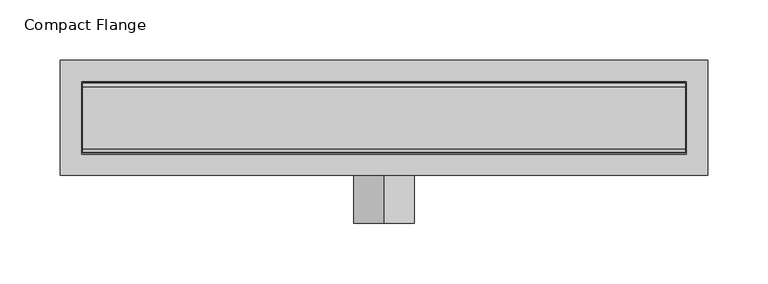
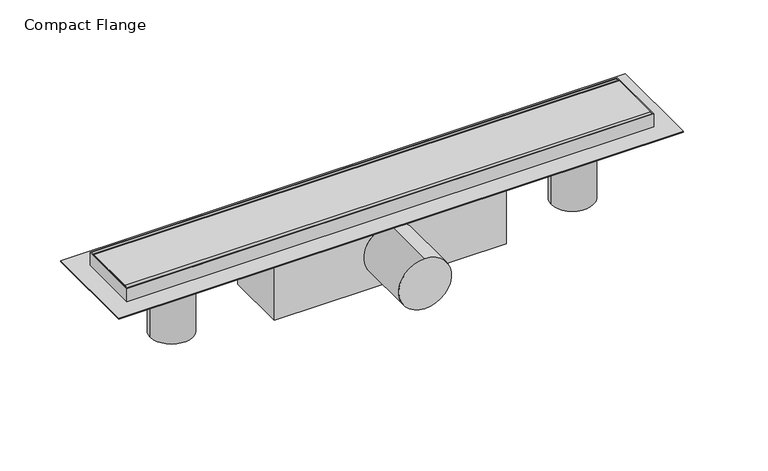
"""IFC4 building model written with IfcOpenShell, lengths in millimetres: sanitary terminal geometry, NLRS_PF_52_UN_Compact_Easydrain : Compact Flange."""

from ifc_helpers import new_model, si_unit, point, frame, frame_2d, origin, place, context, project, spatial, polyline, circle_curve, trimmed, segment, composite_curve, outline, extrude, source, transform, mapped, element, save
from ifc_brep_helpers import plane_surface, cylinder_surface, advanced_brep


def compact_flange_697ba35e(model_context):
    return source(origin(), model_context, "Body", "SolidModel", [
        extrude(outline(composite_curve([segment(polyline([(-25.5, 0.0), (25.5, 0.0)]), True, "CONTINUOUS"), segment(trimmed(circle_curve(frame_2d((25.5, -3.0)), 3.0), [point((25.5, 0.0))], [point((28.5, -3.0))], False, "CARTESIAN"), True, "CONTINUOUS"), segment(polyline([(28.5, -3.0), (28.5, -12.0), (-28.5, -12.0), (-28.5, -3.0)]), True, "CONTINUOUS"), segment(trimmed(circle_curve(frame_2d((-25.5, -3.0)), 3.0), [point((-28.5, -3.0))], [point((-25.5, 0.0))], False, "CARTESIAN"), True, "CONTINUOUS")], self_intersect=False)), frame((-249.0, 0.0, 0.0), z_axis=(1.0, 0.0, 0.0), x_axis=(0.0, 1.0, 0.0)), (0.0, 0.0, 1.0), 498.0),
        extrude(outline(composite_curve([segment(trimmed(circle_curve(frame_2d((190.0, 0.0)), 20.0), [point((210.0, 0.0))], [point((170.0, 0.0))], False, "CARTESIAN"), True, "CONTINUOUS"), segment(trimmed(circle_curve(frame_2d((190.0, 0.0)), 20.0), [point((170.0, 0.0))], [point((210.0, 0.0))], False, "CARTESIAN"), True, "CONTINUOUS")], self_intersect=False)), frame((0.0, 0.0, -81.0), z_axis=(0.0, 0.0, 1.0), x_axis=(1.0, 0.0, 0.0)), (0.0, 0.0, 1.0), 63.0),
        extrude(outline(composite_curve([segment(trimmed(circle_curve(frame_2d((-190.0, 0.0)), 20.0), [point((-210.0, 0.0))], [point((-170.0, 0.0))], False, "CARTESIAN"), True, "CONTINUOUS"), segment(trimmed(circle_curve(frame_2d((-190.0, 0.0)), 20.0), [point((-170.0, 0.0))], [point((-210.0, 0.0))], False, "CARTESIAN"), True, "CONTINUOUS")], self_intersect=False)), frame((0.0, 0.0, -81.0), z_axis=(0.0, 0.0, 1.0), x_axis=(1.0, 0.0, 0.0)), (0.0, 0.0, 1.0), 63.0),
        extrude(outline(polyline([(267.5, 47.5), (267.5, -47.5), (-267.5, -47.5), (-267.5, 47.5), (267.5, 47.5)]), holes=[polyline([(250.0, 30.0), (-250.0, 30.0), (-250.0, -30.0), (250.0, -30.0), (250.0, 30.0)])]), frame((0.0, 0.0, -14.0), z_axis=(0.0, 0.0, 1.0), x_axis=(1.0, 0.0, 0.0)), (0.0, 0.0, 1.0), 1.0),
        advanced_brep(
        [(-250.0, -30.0, -18.0), (-110.0, -30.0, -20.0), (-110.0, -30.0, -81.0), (110.0, -30.0, -81.0), (110.0, -30.0, -20.0), (250.0, -30.0, -18.0), (250.0, -30.0, 0.0), (-250.0, -30.0, 0.0), (0.0, -30.0, -23.0), (0.0, -30.0, -73.0), (-250.0, 30.0, -18.0), (-250.0, 30.0, 0.0), (250.0, 30.0, 0.0), (250.0, 30.0, -18.0), (110.0, 30.0, -20.0), (110.0, 30.0, -81.0), (-110.0, 30.0, -81.0), (-110.0, 30.0, -20.0), (-249.0, 29.0, 0.0), (249.0, 29.0, 0.0), (249.0, -29.0, 0.0), (-249.0, -29.0, 0.0), (0.0, -87.0466767, -23.0), (0.0, -87.0466767, -73.0), (249.0, 29.0, -12.0), (-249.0, 29.0, -12.0), (-249.0, -29.0, -12.0), (249.0, -29.0, -12.0)],
        [
            (0, 1),
            (1, 2),
            (2, 3),
            (3, 4),
            (4, 5),
            (5, 6),
            (6, 7),
            (7, 0),
            (8, 9, circle_curve(frame((0.0, -30.0, -48.0), z_axis=(0.0, 1.0, 0.0), x_axis=(0.0, 0.0, -1.0)), 25.0)),
            (9, 8, circle_curve(frame((0.0, -30.0, -48.0), z_axis=(0.0, 1.0, 0.0), x_axis=(0.0, 0.0, -1.0)), 25.0)),
            (10, 11),
            (11, 12),
            (12, 13),
            (13, 14),
            (14, 15),
            (15, 16),
            (16, 17),
            (17, 10),
            (0, 10),
            (17, 1),
            (5, 13),
            (12, 6),
            (11, 7),
            (18, 19),
            (19, 20),
            (20, 21),
            (21, 18),
            (16, 2),
            (15, 3),
            (14, 4),
            (22, 23, circle_curve(frame((0.0, -87.0466767, -48.0), z_axis=(0.0, -1.0, 0.0), x_axis=(0.0, 0.0, -1.0)), 25.0)),
            (23, 22, circle_curve(frame((0.0, -87.0466767, -48.0), z_axis=(0.0, -1.0, 0.0), x_axis=(0.0, 0.0, -1.0)), 25.0)),
            (23, 9),
            (8, 22),
            (24, 25),
            (25, 26),
            (26, 27),
            (27, 24),
            (24, 19),
            (18, 25),
            (21, 26),
            (20, 27),
        ],
        [
            plane_surface(frame((-250.0, -30.0, -18.0), z_axis=(0.0, -1.0, 0.0), x_axis=(0.99989797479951, 0.0, -0.014284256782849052))),
            plane_surface(frame((-250.0, 30.0, -18.0), z_axis=(0.0, 1.0, 0.0), x_axis=(-0.99989797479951, 0.0, 0.014284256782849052))),
            plane_surface(frame((-250.0, -30.0, -18.0), z_axis=(-0.014284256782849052, 0.0, -0.99989797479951), x_axis=(0.0, 1.0, 0.0))),
            plane_surface(frame((250.0, -30.0, -18.0), z_axis=(1.0, 0.0, 0.0), x_axis=(0.0, 1.0, 0.0))),
            plane_surface(frame((250.0, -30.0, 0.0), z_axis=(0.0, 0.0, 1.0), x_axis=(0.0, 1.0, 0.0))),
            plane_surface(frame((-250.0, -30.0, 0.0), z_axis=(-1.0, 0.0, 0.0), x_axis=(0.0, 1.0, 0.0))),
            plane_surface(frame((-110.0, -30.0, -20.0), z_axis=(-1.0, 0.0, 0.0), x_axis=(0.0, 1.0, 0.0))),
            plane_surface(frame((-110.0, -30.0, -81.0), z_axis=(0.0, 0.0, -1.0), x_axis=(0.0, 1.0, 0.0))),
            plane_surface(frame((110.0, -30.0, -81.0), z_axis=(1.0, 0.0, 0.0), x_axis=(0.0, 1.0, 0.0))),
            plane_surface(frame((110.0, -30.0, -20.0), z_axis=(0.01428425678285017, 0.0, -0.99989797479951), x_axis=(0.0, 1.0, 0.0))),
            plane_surface(frame((0.0, -87.0466767, -48.0), z_axis=(0.0, -1.0, 0.0), x_axis=(1.0, 0.0, 0.0))),
            cylinder_surface(frame((0.0, 0.0, -48.0), z_axis=(0.0, 1.0, 0.0), x_axis=(0.0, 0.0, -1.0)), 25.0),
            plane_surface(frame((-249.0, 29.0, -12.0), z_axis=(0.0, 0.0, 1.0), x_axis=(1.0, 0.0, 0.0))),
            plane_surface(frame((249.0, 29.0, 0.0), z_axis=(0.0, -1.0, 0.0), x_axis=(0.0, 0.0, -1.0))),
            plane_surface(frame((-249.0, 29.0, 0.0), z_axis=(1.0, 0.0, 0.0), x_axis=(0.0, 0.0, -1.0))),
            plane_surface(frame((-249.0, -29.0, 0.0), z_axis=(0.0, 1.0, 0.0), x_axis=(0.0, 0.0, -1.0))),
            plane_surface(frame((249.0, -29.0, 0.0), z_axis=(-1.0, 0.0, 0.0), x_axis=(0.0, 0.0, -1.0))),
        ],
        [
            (0, [[1, 2, 3, 4, 5, 6, 7, 8], [9, 10]]),
            (1, [[11, 12, 13, 14, 15, 16, 17, 18]]),
            (2, [[-1, 19, -18, 20]]),
            (3, [[-6, 21, -13, 22]]),
            (4, [[-7, -22, -12, 23], [24, 25, 26, 27]]),
            (5, [[-8, -23, -11, -19]]),
            (6, [[-2, -20, -17, 28]]),
            (7, [[-3, -28, -16, 29]]),
            (8, [[-4, -29, -15, 30]]),
            (9, [[-5, -30, -14, -21]]),
            (10, [[31, 32]]),
            (11, [[-32, 33, -9, 34]]),
            (11, [[-31, -34, -10, -33]]),
            (12, [[35, 36, 37, 38]]),
            (13, [[-35, 39, -24, 40]]),
            (14, [[-36, -40, -27, 41]]),
            (15, [[-37, -41, -26, 42]]),
            (16, [[-38, -42, -25, -39]]),
        ],
    ),
    ])


if __name__ == "__main__":
    model = new_model("IFC4")
    model_context = context("Model", 3, world=origin())
    ifc_project = project(units=[si_unit("LENGTHUNIT", "METRE", prefix="MILLI")], contexts=[model_context])
    site = spatial("IfcSite", under=ifc_project)
    building = spatial("IfcBuilding", under=site)
    placement = place(None, origin())
    compact_flange_shape = compact_flange_697ba35e(model_context)
    element("IfcSanitaryTerminal", 1, ObjectType="NLRS_PF_52_UN_Compact_Easydrain : Compact Flange", at=placement, inside=building, context=model_context, shape_type="MappedRepresentation", body=[
        mapped(compact_flange_shape, transform((0.0, 0.0, 0.0), x_axis=(1.0, 0.0, 0.0), y_axis=(0.0, 1.0, 0.0), z_axis=(0.0, 0.0, 1.0))),
    ])
    save(model, "model.ifc")
